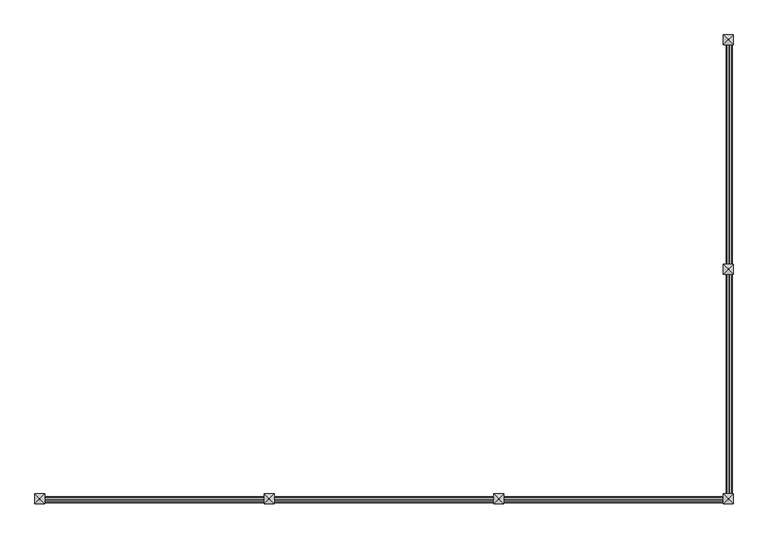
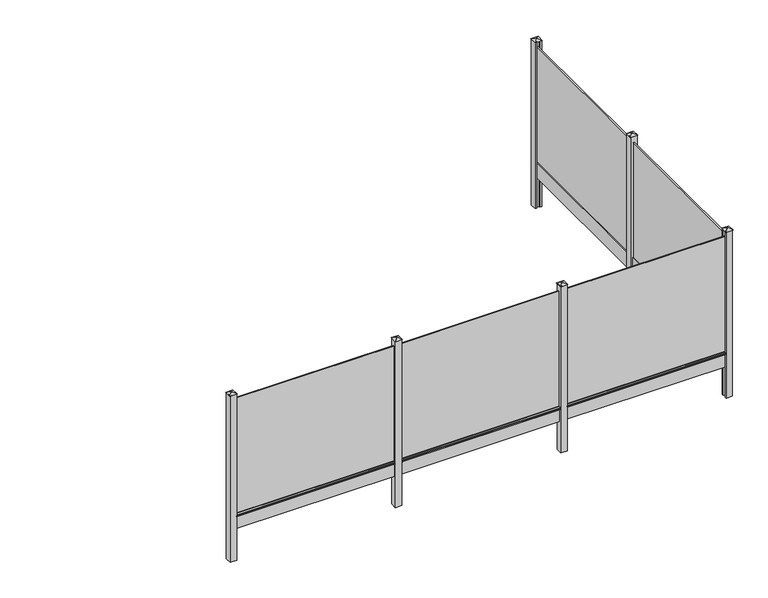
"""IFC4 building model written with IfcOpenShell, lengths in millimetres: railing geometry, Mehat - Railing - Plaque de Soubassement - Classique pour clôture rigide - 253.5x25x4.3/3.8 cm."""

from ifc_helpers import new_model, si_unit, frame, origin, place, context, project, spatial, polyline, circle_curve, outline, extrude, faceted_brep, source, transform, mapped, element, save
from ifc_brep_helpers import plane_surface, cylinder_surface, advanced_brep


def railing_6adef51b(model_context):
    return source(origin(), model_context, "Body", "SolidModel", [
        extrude(outline(polyline([(206796.2516516, -10992.4943936), (206779.2516516, -10992.4943936), (206779.2516516, -8457.4943936), (206796.2516516, -8457.4943936), (206796.2516516, -10992.4943936)])), frame((0.0, 0.0, 250.0), z_axis=(0.0, 0.0, 1.0), x_axis=(1.0, 0.0, 0.0)), (0.0, 0.0, 1.0), 1900.0),
        advanced_brep(
        [(206809.0334698, -8457.4943936, 250.0), (206808.8503139, -8457.4943936, 209.8662207), (206806.7516516, -8457.4943936, 0.0), (206768.7516516, -8457.4943936, 0.0), (206766.2516516, -8457.4943936, 250.0), (206808.8503139, -10992.4943936, 209.8662207), (206809.0334698, -10992.4943936, 250.0), (206766.2516516, -10992.4943936, 250.0), (206768.7516516, -10992.4943936, 0.0), (206806.7516516, -10992.4943936, 0.0), (206809.0334698, -10967.4943936, 250.0), (206809.0334698, -8482.4943936, 250.0), (206808.8503139, -8482.4943936, 209.8662207), (206808.8503139, -10967.4943936, 209.8662207), (206830.8327905, -8482.4943936, 217.1937129), (206830.8327905, -10967.4943936, 217.1937129), (206834.2516516, -8482.4943936, 221.9371294), (206834.2516516, -10967.4943936, 221.9371294), (206834.2516516, -8482.4943936, 238.0628706), (206834.2516516, -10967.4943936, 238.0628706), (206830.8327905, -8482.4943936, 242.8062871), (206830.8327905, -10967.4943936, 242.8062871)],
        [
            (0, 1),
            (1, 2),
            (2, 3),
            (3, 4),
            (4, 0),
            (5, 6),
            (6, 7),
            (7, 8),
            (8, 9),
            (9, 5),
            (4, 7),
            (6, 10),
            (10, 11),
            (11, 0),
            (3, 8),
            (2, 9),
            (1, 12),
            (12, 13),
            (13, 5),
            (12, 14),
            (14, 15),
            (15, 13),
            (14, 16, circle_curve(frame((206829.2516516, -8482.4943936, 221.9371294), z_axis=(0.0, -1.0, 0.0), x_axis=(1.0, 0.0, 0.0)), 5.0)),
            (16, 17),
            (17, 15, circle_curve(frame((206829.2516516, -10967.4943936, 221.9371294), z_axis=(0.0, 1.0, 0.0), x_axis=(1.0, 0.0, 0.0)), 5.0)),
            (16, 18),
            (18, 19),
            (19, 17),
            (18, 20, circle_curve(frame((206829.2516516, -8482.4943936, 238.0628706), z_axis=(0.0, -1.0, 0.0), x_axis=(1.0, 0.0, 0.0)), 5.0)),
            (20, 21),
            (21, 19, circle_curve(frame((206829.2516516, -10967.4943936, 238.0628706), z_axis=(0.0, 1.0, 0.0), x_axis=(1.0, 0.0, 0.0)), 5.0)),
            (20, 11),
            (10, 21),
            (10, 13),
            (12, 11),
        ],
        [
            plane_surface(frame((206766.2516516, -8457.4943936, 250.0), z_axis=(0.0, 1.0, 0.0), x_axis=(-1.0, 0.0, 0.0))),
            plane_surface(frame((206766.2516516, -10992.4943936, 250.0), z_axis=(0.0, -1.0, 0.0), x_axis=(1.0, 0.0, 0.0))),
            plane_surface(frame((206809.0334698, -8457.4943936, 250.0), z_axis=(0.0, 0.0, 1.0), x_axis=(0.0, -1.0, 0.0))),
            plane_surface(frame((206766.2516516, -8457.4943936, 250.0), z_axis=(-0.9999500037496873, 0.0, -0.009999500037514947), x_axis=(0.0, -1.0, 0.0))),
            plane_surface(frame((206768.7516516, -8457.4943936, 0.0), z_axis=(0.0, 0.0, -1.0), x_axis=(0.0, -1.0, 0.0))),
            plane_surface(frame((206806.7516516, -8457.4943936, 0.0), z_axis=(0.9999500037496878, 0.0, -0.009999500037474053), x_axis=(0.0, -1.0, 0.0))),
            plane_surface(frame((206808.8503139, -8457.4943936, 209.8662207), z_axis=(0.3162277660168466, 0.0, -0.948683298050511), x_axis=(0.0, -1.0, 0.0))),
            cylinder_surface(frame((206829.2516516, -10992.4943936, 221.9371294), z_axis=(0.0, 1.0, 0.0), x_axis=(1.0, 0.0, 0.0)), 5.0),
            plane_surface(frame((206834.2516516, -8457.4943936, 221.9371294), z_axis=(1.0, 0.0, 0.0), x_axis=(0.0, -1.0, 0.0))),
            cylinder_surface(frame((206829.2516516, -10992.4943936, 238.0628706), z_axis=(0.0, 1.0, 0.0), x_axis=(1.0, 0.0, 0.0)), 5.0),
            plane_surface(frame((206830.8327905, -8457.4943936, 242.8062871), z_axis=(0.3133749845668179, 0.0, 0.9496294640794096), x_axis=(0.0, -1.0, 0.0))),
            plane_surface(frame((206834.2516516, -10967.4943936, 221.9371294), z_axis=(0.0, -1.0, 0.0), x_axis=(0.0, 0.0, 1.0))),
            plane_surface(frame((206809.0334698, -10967.4943936, 250.0), z_axis=(0.9999895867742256, 0.0, -0.004563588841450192), x_axis=(0.0, -1.0, 0.0))),
            plane_surface(frame((206834.2516517, -8482.4943936, 221.9371294), z_axis=(0.0, 1.0, 0.0), x_axis=(0.0, 0.0, -1.0))),
            plane_surface(frame((206809.0334698, -8457.4943936, 250.0), z_axis=(0.9999895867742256, 0.0, -0.004563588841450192), x_axis=(0.0, -1.0, 0.0))),
        ],
        [
            (0, [[1, 2, 3, 4, 5]]),
            (1, [[6, 7, 8, 9, 10]]),
            (2, [[11, -7, 12, 13, 14, -5]]),
            (3, [[15, -8, -11, -4]]),
            (4, [[16, -9, -15, -3]]),
            (5, [[17, 18, 19, -10, -16, -2]]),
            (6, [[-18, 20, 21, 22]]),
            (7, [[-21, 23, 24, 25]]),
            (8, [[-24, 26, 27, 28]]),
            (9, [[-27, 29, 30, 31]]),
            (10, [[-30, 32, -13, 33]]),
            (11, [[-22, -25, -28, -31, -33, 34]]),
            (12, [[-12, -6, -19, -34]]),
            (13, [[-32, -29, -26, -23, -20, 35]]),
            (14, [[-17, -1, -14, -35]]),
        ],
    ),
        extrude(outline(polyline([(206837.7516516, -11067.4943936), (206737.7516516, -11067.4943936), (206737.7516516, -10967.4943936), (206766.2516516, -10967.4943936), (206766.2516516, -10992.4943936), (206809.2516516, -10992.4943936), (206809.2516516, -10967.4943936), (206837.7516516, -10967.4943936), (206837.7516516, -11067.4943936)])), frame((0.0, 0.0, -500.0), z_axis=(0.0, 0.0, 1.0), x_axis=(1.0, 0.0, 0.0)), (0.0, 0.0, 1.0), 2750.0),
        faceted_brep([(206781.3471055, -11011.1443936, 2275.4), (206781.3471055, -11023.8443936, 2275.4), (206794.0471055, -11023.8443936, 2275.4), (206794.0471055, -11011.1443936, 2275.4), (206731.4016516, -10961.1443936, 2250.0), (206844.1016516, -10961.1443936, 2250.0), (206844.1016516, -11073.8443936, 2250.0), (206731.4016516, -11073.8443936, 2250.0)], [[[0, 1, 2, 3]], [[4, 5, 6, 7]], [[4, 0, 3, 5]], [[5, 3, 2, 6]], [[6, 2, 1, 7]], [[7, 1, 0, 4]]]),
        extrude(outline(polyline([(206796.2516516, -13577.4943936), (206779.2516516, -13577.4943936), (206779.2516516, -11042.4943936), (206796.2516516, -11042.4943936), (206796.2516516, -13577.4943936)])), frame((0.0, 0.0, 250.0), z_axis=(0.0, 0.0, 1.0), x_axis=(1.0, 0.0, 0.0)), (0.0, 0.0, 1.0), 1900.0),
        advanced_brep(
        [(206809.0334698, -11042.4943936, 250.0), (206808.8503139, -11042.4943936, 209.8662207), (206806.7516516, -11042.4943936, 0.0), (206768.7516516, -11042.4943936, 0.0), (206766.2516516, -11042.4943936, 250.0), (206808.8503139, -13577.4943936, 209.8662207), (206809.0334698, -13577.4943936, 250.0), (206766.2516516, -13577.4943936, 250.0), (206768.7516516, -13577.4943936, 0.0), (206806.7516516, -13577.4943936, 0.0), (206809.0334698, -13552.4943936, 250.0), (206809.0334698, -11067.4943936, 250.0), (206808.8503139, -11067.4943936, 209.8662207), (206808.8503139, -13552.4943936, 209.8662207), (206830.8327905, -11067.4943936, 217.1937129), (206830.8327905, -13552.4943936, 217.1937129), (206834.2516516, -11067.4943936, 221.9371294), (206834.2516516, -13552.4943936, 221.9371294), (206834.2516516, -11067.4943936, 238.0628706), (206834.2516516, -13552.4943936, 238.0628706), (206830.8327905, -11067.4943936, 242.8062871), (206830.8327905, -13552.4943936, 242.8062871)],
        [
            (0, 1),
            (1, 2),
            (2, 3),
            (3, 4),
            (4, 0),
            (5, 6),
            (6, 7),
            (7, 8),
            (8, 9),
            (9, 5),
            (4, 7),
            (6, 10),
            (10, 11),
            (11, 0),
            (3, 8),
            (2, 9),
            (1, 12),
            (12, 13),
            (13, 5),
            (12, 14),
            (14, 15),
            (15, 13),
            (14, 16, circle_curve(frame((206829.2516516, -11067.4943936, 221.9371294), z_axis=(0.0, -1.0, 0.0), x_axis=(1.0, 0.0, 0.0)), 5.0)),
            (16, 17),
            (17, 15, circle_curve(frame((206829.2516516, -13552.4943936, 221.9371294), z_axis=(0.0, 1.0, 0.0), x_axis=(1.0, 0.0, 0.0)), 5.0)),
            (16, 18),
            (18, 19),
            (19, 17),
            (18, 20, circle_curve(frame((206829.2516516, -11067.4943936, 238.0628706), z_axis=(0.0, -1.0, 0.0), x_axis=(1.0, 0.0, 0.0)), 5.0)),
            (20, 21),
            (21, 19, circle_curve(frame((206829.2516516, -13552.4943936, 238.0628706), z_axis=(0.0, 1.0, 0.0), x_axis=(1.0, 0.0, 0.0)), 5.0)),
            (20, 11),
            (10, 21),
            (10, 13),
            (12, 11),
        ],
        [
            plane_surface(frame((206766.2516516, -11042.4943936, 250.0), z_axis=(0.0, 1.0, 0.0), x_axis=(-1.0, 0.0, 0.0))),
            plane_surface(frame((206766.2516516, -13577.4943936, 250.0), z_axis=(0.0, -1.0, 0.0), x_axis=(1.0, 0.0, 0.0))),
            plane_surface(frame((206809.0334698, -11042.4943936, 250.0), z_axis=(0.0, 0.0, 1.0), x_axis=(0.0, -1.0, 0.0))),
            plane_surface(frame((206766.2516516, -11042.4943936, 250.0), z_axis=(-0.9999500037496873, 0.0, -0.009999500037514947), x_axis=(0.0, -1.0, 0.0))),
            plane_surface(frame((206768.7516516, -11042.4943936, 0.0), z_axis=(0.0, 0.0, -1.0), x_axis=(0.0, -1.0, 0.0))),
            plane_surface(frame((206806.7516516, -11042.4943936, 0.0), z_axis=(0.9999500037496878, 0.0, -0.009999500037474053), x_axis=(0.0, -1.0, 0.0))),
            plane_surface(frame((206808.8503139, -11042.4943936, 209.8662207), z_axis=(0.3162277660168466, 0.0, -0.948683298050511), x_axis=(0.0, -1.0, 0.0))),
            cylinder_surface(frame((206829.2516516, -13577.4943936, 221.9371294), z_axis=(0.0, 1.0, 0.0), x_axis=(1.0, 0.0, 0.0)), 5.0),
            plane_surface(frame((206834.2516516, -11042.4943936, 221.9371294), z_axis=(1.0, 0.0, 0.0), x_axis=(0.0, -1.0, 0.0))),
            cylinder_surface(frame((206829.2516516, -13577.4943936, 238.0628706), z_axis=(0.0, 1.0, 0.0), x_axis=(1.0, 0.0, 0.0)), 5.0),
            plane_surface(frame((206830.8327905, -11042.4943936, 242.8062871), z_axis=(0.3133749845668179, 0.0, 0.9496294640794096), x_axis=(0.0, -1.0, 0.0))),
            plane_surface(frame((206834.2516516, -13552.4943936, 221.9371294), z_axis=(0.0, -1.0, 0.0), x_axis=(0.0, 0.0, 1.0))),
            plane_surface(frame((206809.0334698, -13552.4943936, 250.0), z_axis=(0.9999895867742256, 0.0, -0.004563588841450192), x_axis=(0.0, -1.0, 0.0))),
            plane_surface(frame((206834.2516517, -11067.4943936, 221.9371294), z_axis=(0.0, 1.0, 0.0), x_axis=(0.0, 0.0, -1.0))),
            plane_surface(frame((206809.0334698, -11042.4943936, 250.0), z_axis=(0.9999895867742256, 0.0, -0.004563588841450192), x_axis=(0.0, -1.0, 0.0))),
        ],
        [
            (0, [[1, 2, 3, 4, 5]]),
            (1, [[6, 7, 8, 9, 10]]),
            (2, [[11, -7, 12, 13, 14, -5]]),
            (3, [[15, -8, -11, -4]]),
            (4, [[16, -9, -15, -3]]),
            (5, [[17, 18, 19, -10, -16, -2]]),
            (6, [[-18, 20, 21, 22]]),
            (7, [[-21, 23, 24, 25]]),
            (8, [[-24, 26, 27, 28]]),
            (9, [[-27, 29, 30, 31]]),
            (10, [[-30, 32, -13, 33]]),
            (11, [[-22, -25, -28, -31, -33, 34]]),
            (12, [[-12, -6, -19, -34]]),
            (13, [[-32, -29, -26, -23, -20, 35]]),
            (14, [[-17, -1, -14, -35]]),
        ],
    ),
        extrude(outline(polyline([(204227.7516516, -13610.9943936), (204227.7516516, -13593.9943936), (206762.7516516, -13593.9943936), (206762.7516516, -13610.9943936), (204227.7516516, -13610.9943936)])), frame((0.0, 0.0, 250.0), z_axis=(0.0, 0.0, 1.0), x_axis=(1.0, 0.0, 0.0)), (0.0, 0.0, 1.0), 1900.0),
        advanced_brep(
        [(206762.7516516, -13623.7762118, 250.0), (206762.7516516, -13623.5930558, 209.8662207), (206762.7516516, -13621.4943936, 0.0), (206762.7516516, -13583.4943936, 0.0), (206762.7516516, -13580.9943936, 250.0), (204227.7516516, -13623.5930558, 209.8662207), (204227.7516516, -13623.7762118, 250.0), (204227.7516516, -13580.9943936, 250.0), (204227.7516516, -13583.4943936, 0.0), (204227.7516516, -13621.4943936, 0.0), (204252.7516516, -13623.7762118, 250.0), (206737.7516516, -13623.7762118, 250.0), (206737.7516516, -13623.5930558, 209.8662207), (204252.7516516, -13623.5930558, 209.8662207), (206737.7516516, -13645.5755325, 217.1937129), (204252.7516516, -13645.5755325, 217.1937129), (206737.7516516, -13648.9943936, 221.9371294), (204252.7516516, -13648.9943936, 221.9371294), (206737.7516516, -13648.9943936, 238.0628706), (204252.7516516, -13648.9943936, 238.0628706), (206737.7516516, -13645.5755325, 242.8062871), (204252.7516516, -13645.5755325, 242.8062871)],
        [
            (0, 1),
            (1, 2),
            (2, 3),
            (3, 4),
            (4, 0),
            (5, 6),
            (6, 7),
            (7, 8),
            (8, 9),
            (9, 5),
            (4, 7),
            (6, 10),
            (10, 11),
            (11, 0),
            (3, 8),
            (2, 9),
            (1, 12),
            (12, 13),
            (13, 5),
            (12, 14),
            (14, 15),
            (15, 13),
            (14, 16, circle_curve(frame((206737.7516516, -13643.9943936, 221.9371294), z_axis=(-1.0, 0.0, 0.0), x_axis=(0.0, -1.0, 0.0)), 5.0)),
            (16, 17),
            (17, 15, circle_curve(frame((204252.7516516, -13643.9943936, 221.9371294), z_axis=(1.0, 0.0, 0.0), x_axis=(0.0, -1.0, 0.0)), 5.0)),
            (16, 18),
            (18, 19),
            (19, 17),
            (18, 20, circle_curve(frame((206737.7516516, -13643.9943936, 238.0628706), z_axis=(-1.0, 0.0, 0.0), x_axis=(0.0, -1.0, 0.0)), 5.0)),
            (20, 21),
            (21, 19, circle_curve(frame((204252.7516516, -13643.9943936, 238.0628706), z_axis=(1.0, 0.0, 0.0), x_axis=(0.0, -1.0, 0.0)), 5.0)),
            (20, 11),
            (10, 21),
            (10, 13),
            (12, 11),
        ],
        [
            plane_surface(frame((206762.7516516, -13580.9943936, 250.0), z_axis=(1.0, 0.0, 0.0), x_axis=(0.0, 1.0, 0.0))),
            plane_surface(frame((204227.7516516, -13580.9943936, 250.0), z_axis=(-1.0, 0.0, 0.0), x_axis=(0.0, -1.0, 0.0))),
            plane_surface(frame((206762.7516516, -13623.7762118, 250.0), z_axis=(0.0, 0.0, 1.0), x_axis=(-1.0, 0.0, 0.0))),
            plane_surface(frame((206762.7516516, -13580.9943936, 250.0), z_axis=(0.0, 0.9999500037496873, -0.009999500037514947), x_axis=(-1.0, 0.0, 0.0))),
            plane_surface(frame((206762.7516516, -13583.4943936, 0.0), z_axis=(0.0, 0.0, -1.0), x_axis=(-1.0, 0.0, 0.0))),
            plane_surface(frame((206762.7516516, -13621.4943936, 0.0), z_axis=(0.0, -0.9999500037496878, -0.009999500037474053), x_axis=(-1.0, 0.0, 0.0))),
            plane_surface(frame((206762.7516516, -13623.5930558, 209.8662207), z_axis=(0.0, -0.3162277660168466, -0.948683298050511), x_axis=(-1.0, 0.0, 0.0))),
            cylinder_surface(frame((204227.7516516, -13643.9943936, 221.9371294), z_axis=(1.0, 0.0, 0.0), x_axis=(0.0, -1.0, 0.0)), 5.0),
            plane_surface(frame((206762.7516516, -13648.9943936, 221.9371294), z_axis=(0.0, -1.0, 0.0), x_axis=(-1.0, 0.0, 0.0))),
            cylinder_surface(frame((204227.7516516, -13643.9943936, 238.0628706), z_axis=(1.0, 0.0, 0.0), x_axis=(0.0, -1.0, 0.0)), 5.0),
            plane_surface(frame((206762.7516516, -13645.5755325, 242.8062871), z_axis=(0.0, -0.3133749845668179, 0.9496294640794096), x_axis=(-1.0, 0.0, 0.0))),
            plane_surface(frame((204252.7516516, -13648.9943936, 221.9371294), z_axis=(-1.0, 0.0, 0.0), x_axis=(0.0, 0.0, 1.0))),
            plane_surface(frame((204252.7516516, -13623.7762118, 250.0), z_axis=(0.0, -0.9999895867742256, -0.004563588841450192), x_axis=(-1.0, 0.0, 0.0))),
            plane_surface(frame((206737.7516516, -13648.9943936, 221.9371294), z_axis=(1.0, 0.0, 0.0), x_axis=(0.0, 0.0, -1.0))),
            plane_surface(frame((206762.7516516, -13623.7762118, 250.0), z_axis=(0.0, -0.9999895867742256, -0.004563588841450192), x_axis=(-1.0, 0.0, 0.0))),
        ],
        [
            (0, [[1, 2, 3, 4, 5]]),
            (1, [[6, 7, 8, 9, 10]]),
            (2, [[11, -7, 12, 13, 14, -5]]),
            (3, [[15, -8, -11, -4]]),
            (4, [[16, -9, -15, -3]]),
            (5, [[17, 18, 19, -10, -16, -2]]),
            (6, [[-18, 20, 21, 22]]),
            (7, [[-21, 23, 24, 25]]),
            (8, [[-24, 26, 27, 28]]),
            (9, [[-27, 29, 30, 31]]),
            (10, [[-30, 32, -13, 33]]),
            (11, [[-22, -25, -28, -31, -33, 34]]),
            (12, [[-12, -6, -19, -34]]),
            (13, [[-32, -29, -26, -23, -20, 35]]),
            (14, [[-17, -1, -14, -35]]),
        ],
    ),
        extrude(outline(polyline([(204152.7516516, -13652.4943936), (204152.7516516, -13552.4943936), (204252.7516516, -13552.4943936), (204252.7516516, -13580.9943936), (204227.7516516, -13580.9943936), (204227.7516516, -13623.9943936), (204252.7516516, -13623.9943936), (204252.7516516, -13652.4943936), (204152.7516516, -13652.4943936)])), frame((0.0, 0.0, -500.0), z_axis=(0.0, 0.0, 1.0), x_axis=(1.0, 0.0, 0.0)), (0.0, 0.0, 1.0), 2750.0),
        faceted_brep([(204209.1016516, -13596.0898475, 2275.4), (204196.4016516, -13596.0898475, 2275.4), (204196.4016516, -13608.7898475, 2275.4), (204209.1016516, -13608.7898475, 2275.4), (204259.1016516, -13546.1443936, 2250.0), (204259.1016516, -13658.8443936, 2250.0), (204146.4016516, -13658.8443936, 2250.0), (204146.4016516, -13546.1443936, 2250.0)], [[[0, 1, 2, 3]], [[4, 5, 6, 7]], [[4, 0, 3, 5]], [[5, 3, 2, 6]], [[6, 2, 1, 7]], [[7, 1, 0, 4]]]),
        extrude(outline(polyline([(201642.7516516, -13610.9943936), (201642.7516516, -13593.9943936), (204177.7516516, -13593.9943936), (204177.7516516, -13610.9943936), (201642.7516516, -13610.9943936)])), frame((0.0, 0.0, 250.0), z_axis=(0.0, 0.0, 1.0), x_axis=(1.0, 0.0, 0.0)), (0.0, 0.0, 1.0), 1900.0),
        advanced_brep(
        [(204177.7516516, -13623.7762118, 250.0), (204177.7516516, -13623.5930558, 209.8662207), (204177.7516516, -13621.4943936, 0.0), (204177.7516516, -13583.4943936, 0.0), (204177.7516516, -13580.9943936, 250.0), (201642.7516516, -13623.5930558, 209.8662207), (201642.7516516, -13623.7762118, 250.0), (201642.7516516, -13580.9943936, 250.0), (201642.7516516, -13583.4943936, 0.0), (201642.7516516, -13621.4943936, 0.0), (201667.7516516, -13623.7762118, 250.0), (204152.7516516, -13623.7762118, 250.0), (204152.7516516, -13623.5930558, 209.8662207), (201667.7516516, -13623.5930558, 209.8662207), (204152.7516516, -13645.5755325, 217.1937129), (201667.7516516, -13645.5755325, 217.1937129), (204152.7516516, -13648.9943936, 221.9371294), (201667.7516516, -13648.9943936, 221.9371294), (204152.7516516, -13648.9943936, 238.0628706), (201667.7516516, -13648.9943936, 238.0628706), (204152.7516516, -13645.5755325, 242.8062871), (201667.7516516, -13645.5755325, 242.8062871)],
        [
            (0, 1),
            (1, 2),
            (2, 3),
            (3, 4),
            (4, 0),
            (5, 6),
            (6, 7),
            (7, 8),
            (8, 9),
            (9, 5),
            (4, 7),
            (6, 10),
            (10, 11),
            (11, 0),
            (3, 8),
            (2, 9),
            (1, 12),
            (12, 13),
            (13, 5),
            (12, 14),
            (14, 15),
            (15, 13),
            (14, 16, circle_curve(frame((204152.7516516, -13643.9943936, 221.9371294), z_axis=(-1.0, 0.0, 0.0), x_axis=(0.0, -1.0, 0.0)), 5.0)),
            (16, 17),
            (17, 15, circle_curve(frame((201667.7516516, -13643.9943936, 221.9371294), z_axis=(1.0, 0.0, 0.0), x_axis=(0.0, -1.0, 0.0)), 5.0)),
            (16, 18),
            (18, 19),
            (19, 17),
            (18, 20, circle_curve(frame((204152.7516516, -13643.9943936, 238.0628706), z_axis=(-1.0, 0.0, 0.0), x_axis=(0.0, -1.0, 0.0)), 5.0)),
            (20, 21),
            (21, 19, circle_curve(frame((201667.7516516, -13643.9943936, 238.0628706), z_axis=(1.0, 0.0, 0.0), x_axis=(0.0, -1.0, 0.0)), 5.0)),
            (20, 11),
            (10, 21),
            (10, 13),
            (12, 11),
        ],
        [
            plane_surface(frame((204177.7516516, -13580.9943936, 250.0), z_axis=(1.0, 0.0, 0.0), x_axis=(0.0, 1.0, 0.0))),
            plane_surface(frame((201642.7516516, -13580.9943936, 250.0), z_axis=(-1.0, 0.0, 0.0), x_axis=(0.0, -1.0, 0.0))),
            plane_surface(frame((204177.7516516, -13623.7762118, 250.0), z_axis=(0.0, 0.0, 1.0), x_axis=(-1.0, 0.0, 0.0))),
            plane_surface(frame((204177.7516516, -13580.9943936, 250.0), z_axis=(0.0, 0.9999500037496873, -0.009999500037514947), x_axis=(-1.0, 0.0, 0.0))),
            plane_surface(frame((204177.7516516, -13583.4943936, 0.0), z_axis=(0.0, 0.0, -1.0), x_axis=(-1.0, 0.0, 0.0))),
            plane_surface(frame((204177.7516516, -13621.4943936, 0.0), z_axis=(0.0, -0.9999500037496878, -0.009999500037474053), x_axis=(-1.0, 0.0, 0.0))),
            plane_surface(frame((204177.7516516, -13623.5930558, 209.8662207), z_axis=(0.0, -0.3162277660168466, -0.948683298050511), x_axis=(-1.0, 0.0, 0.0))),
            cylinder_surface(frame((201642.7516516, -13643.9943936, 221.9371294), z_axis=(1.0, 0.0, 0.0), x_axis=(0.0, -1.0, 0.0)), 5.0),
            plane_surface(frame((204177.7516516, -13648.9943936, 221.9371294), z_axis=(0.0, -1.0, 0.0), x_axis=(-1.0, 0.0, 0.0))),
            cylinder_surface(frame((201642.7516516, -13643.9943936, 238.0628706), z_axis=(1.0, 0.0, 0.0), x_axis=(0.0, -1.0, 0.0)), 5.0),
            plane_surface(frame((204177.7516516, -13645.5755325, 242.8062871), z_axis=(0.0, -0.3133749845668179, 0.9496294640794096), x_axis=(-1.0, 0.0, 0.0))),
            plane_surface(frame((201667.7516516, -13648.9943936, 221.9371294), z_axis=(-1.0, 0.0, 0.0), x_axis=(0.0, 0.0, 1.0))),
            plane_surface(frame((201667.7516516, -13623.7762118, 250.0), z_axis=(0.0, -0.9999895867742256, -0.004563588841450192), x_axis=(-1.0, 0.0, 0.0))),
            plane_surface(frame((204152.7516516, -13648.9943936, 221.9371294), z_axis=(1.0, 0.0, 0.0), x_axis=(0.0, 0.0, -1.0))),
            plane_surface(frame((204177.7516516, -13623.7762118, 250.0), z_axis=(0.0, -0.9999895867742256, -0.004563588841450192), x_axis=(-1.0, 0.0, 0.0))),
        ],
        [
            (0, [[1, 2, 3, 4, 5]]),
            (1, [[6, 7, 8, 9, 10]]),
            (2, [[11, -7, 12, 13, 14, -5]]),
            (3, [[15, -8, -11, -4]]),
            (4, [[16, -9, -15, -3]]),
            (5, [[17, 18, 19, -10, -16, -2]]),
            (6, [[-18, 20, 21, 22]]),
            (7, [[-21, 23, 24, 25]]),
            (8, [[-24, 26, 27, 28]]),
            (9, [[-27, 29, 30, 31]]),
            (10, [[-30, 32, -13, 33]]),
            (11, [[-22, -25, -28, -31, -33, 34]]),
            (12, [[-12, -6, -19, -34]]),
            (13, [[-32, -29, -26, -23, -20, 35]]),
            (14, [[-17, -1, -14, -35]]),
        ],
    ),
        extrude(outline(polyline([(201567.7516516, -13652.4943936), (201567.7516516, -13552.4943936), (201667.7516516, -13552.4943936), (201667.7516516, -13580.9943936), (201642.7516516, -13580.9943936), (201642.7516516, -13623.9943936), (201667.7516516, -13623.9943936), (201667.7516516, -13652.4943936), (201567.7516516, -13652.4943936)])), frame((0.0, 0.0, -500.0), z_axis=(0.0, 0.0, 1.0), x_axis=(1.0, 0.0, 0.0)), (0.0, 0.0, 1.0), 2750.0),
        faceted_brep([(201624.1016516, -13596.0898475, 2275.4), (201611.4016516, -13596.0898475, 2275.4), (201611.4016516, -13608.7898475, 2275.4), (201624.1016516, -13608.7898475, 2275.4), (201674.1016516, -13546.1443936, 2250.0), (201674.1016516, -13658.8443936, 2250.0), (201561.4016516, -13658.8443936, 2250.0), (201561.4016516, -13546.1443936, 2250.0)], [[[0, 1, 2, 3]], [[4, 5, 6, 7]], [[4, 0, 3, 5]], [[5, 3, 2, 6]], [[6, 2, 1, 7]], [[7, 1, 0, 4]]]),
        extrude(outline(polyline([(199057.7516516, -13610.9943936), (199057.7516516, -13593.9943936), (201592.7516516, -13593.9943936), (201592.7516516, -13610.9943936), (199057.7516516, -13610.9943936)])), frame((0.0, 0.0, 250.0), z_axis=(0.0, 0.0, 1.0), x_axis=(1.0, 0.0, 0.0)), (0.0, 0.0, 1.0), 1900.0),
        advanced_brep(
        [(201592.7516516, -13623.7762118, 250.0), (201592.7516516, -13623.5930558, 209.8662207), (201592.7516516, -13621.4943936, 0.0), (201592.7516516, -13583.4943936, 0.0), (201592.7516516, -13580.9943936, 250.0), (199057.7516516, -13623.5930558, 209.8662207), (199057.7516516, -13623.7762118, 250.0), (199057.7516516, -13580.9943936, 250.0), (199057.7516516, -13583.4943936, 0.0), (199057.7516516, -13621.4943936, 0.0), (199082.7516516, -13623.7762118, 250.0), (201567.7516516, -13623.7762118, 250.0), (201567.7516516, -13623.5930558, 209.8662207), (199082.7516516, -13623.5930558, 209.8662207), (201567.7516516, -13645.5755325, 217.1937129), (199082.7516516, -13645.5755325, 217.1937129), (201567.7516516, -13648.9943936, 221.9371294), (199082.7516516, -13648.9943936, 221.9371294), (201567.7516516, -13648.9943936, 238.0628706), (199082.7516516, -13648.9943936, 238.0628706), (201567.7516516, -13645.5755325, 242.8062871), (199082.7516516, -13645.5755325, 242.8062871)],
        [
            (0, 1),
            (1, 2),
            (2, 3),
            (3, 4),
            (4, 0),
            (5, 6),
            (6, 7),
            (7, 8),
            (8, 9),
            (9, 5),
            (4, 7),
            (6, 10),
            (10, 11),
            (11, 0),
            (3, 8),
            (2, 9),
            (1, 12),
            (12, 13),
            (13, 5),
            (12, 14),
            (14, 15),
            (15, 13),
            (14, 16, circle_curve(frame((201567.7516516, -13643.9943936, 221.9371294), z_axis=(-1.0, 0.0, 0.0), x_axis=(0.0, -1.0, 0.0)), 5.0)),
            (16, 17),
            (17, 15, circle_curve(frame((199082.7516516, -13643.9943936, 221.9371294), z_axis=(1.0, 0.0, 0.0), x_axis=(0.0, -1.0, 0.0)), 5.0)),
            (16, 18),
            (18, 19),
            (19, 17),
            (18, 20, circle_curve(frame((201567.7516516, -13643.9943936, 238.0628706), z_axis=(-1.0, 0.0, 0.0), x_axis=(0.0, -1.0, 0.0)), 5.0)),
            (20, 21),
            (21, 19, circle_curve(frame((199082.7516516, -13643.9943936, 238.0628706), z_axis=(1.0, 0.0, 0.0), x_axis=(0.0, -1.0, 0.0)), 5.0)),
            (20, 11),
            (10, 21),
            (10, 13),
            (12, 11),
        ],
        [
            plane_surface(frame((201592.7516516, -13580.9943936, 250.0), z_axis=(1.0, 0.0, 0.0), x_axis=(0.0, 1.0, 0.0))),
            plane_surface(frame((199057.7516516, -13580.9943936, 250.0), z_axis=(-1.0, 0.0, 0.0), x_axis=(0.0, -1.0, 0.0))),
            plane_surface(frame((201592.7516516, -13623.7762118, 250.0), z_axis=(0.0, 0.0, 1.0), x_axis=(-1.0, 0.0, 0.0))),
            plane_surface(frame((201592.7516516, -13580.9943936, 250.0), z_axis=(0.0, 0.9999500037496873, -0.009999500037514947), x_axis=(-1.0, 0.0, 0.0))),
            plane_surface(frame((201592.7516516, -13583.4943936, 0.0), z_axis=(0.0, 0.0, -1.0), x_axis=(-1.0, 0.0, 0.0))),
            plane_surface(frame((201592.7516516, -13621.4943936, 0.0), z_axis=(0.0, -0.9999500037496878, -0.009999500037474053), x_axis=(-1.0, 0.0, 0.0))),
            plane_surface(frame((201592.7516516, -13623.5930558, 209.8662207), z_axis=(0.0, -0.3162277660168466, -0.948683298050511), x_axis=(-1.0, 0.0, 0.0))),
            cylinder_surface(frame((199057.7516516, -13643.9943936, 221.9371294), z_axis=(1.0, 0.0, 0.0), x_axis=(0.0, -1.0, 0.0)), 5.0),
            plane_surface(frame((201592.7516516, -13648.9943936, 221.9371294), z_axis=(0.0, -1.0, 0.0), x_axis=(-1.0, 0.0, 0.0))),
            cylinder_surface(frame((199057.7516516, -13643.9943936, 238.0628706), z_axis=(1.0, 0.0, 0.0), x_axis=(0.0, -1.0, 0.0)), 5.0),
            plane_surface(frame((201592.7516516, -13645.5755325, 242.8062871), z_axis=(0.0, -0.3133749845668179, 0.9496294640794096), x_axis=(-1.0, 0.0, 0.0))),
            plane_surface(frame((199082.7516516, -13648.9943936, 221.9371294), z_axis=(-1.0, 0.0, 0.0), x_axis=(0.0, 0.0, 1.0))),
            plane_surface(frame((199082.7516516, -13623.7762118, 250.0), z_axis=(0.0, -0.9999895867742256, -0.004563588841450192), x_axis=(-1.0, 0.0, 0.0))),
            plane_surface(frame((201567.7516516, -13648.9943936, 221.9371294), z_axis=(1.0, 0.0, 0.0), x_axis=(0.0, 0.0, -1.0))),
            plane_surface(frame((201592.7516516, -13623.7762118, 250.0), z_axis=(0.0, -0.9999895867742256, -0.004563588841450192), x_axis=(-1.0, 0.0, 0.0))),
        ],
        [
            (0, [[1, 2, 3, 4, 5]]),
            (1, [[6, 7, 8, 9, 10]]),
            (2, [[11, -7, 12, 13, 14, -5]]),
            (3, [[15, -8, -11, -4]]),
            (4, [[16, -9, -15, -3]]),
            (5, [[17, 18, 19, -10, -16, -2]]),
            (6, [[-18, 20, 21, 22]]),
            (7, [[-21, 23, 24, 25]]),
            (8, [[-24, 26, 27, 28]]),
            (9, [[-27, 29, 30, 31]]),
            (10, [[-30, 32, -13, 33]]),
            (11, [[-22, -25, -28, -31, -33, 34]]),
            (12, [[-12, -6, -19, -34]]),
            (13, [[-32, -29, -26, -23, -20, 35]]),
            (14, [[-17, -1, -14, -35]]),
        ],
    ),
        extrude(outline(polyline([(206737.7516516, -13652.4943936), (206737.7516516, -13623.9943936), (206762.7516516, -13623.9943936), (206762.7516516, -13580.9943936), (206737.7516516, -13580.9943936), (206737.7516516, -13552.4943936), (206766.2516516, -13552.4943936), (206766.2516516, -13577.4943936), (206809.2516516, -13577.4943936), (206809.2516516, -13552.4943936), (206837.7516516, -13552.4943936), (206837.7516516, -13652.4943936), (206737.7516516, -13652.4943936)])), frame((0.0, 0.0, -500.0), z_axis=(0.0, 0.0, 1.0), x_axis=(1.0, 0.0, 0.0)), (0.0, 0.0, 1.0), 2750.0),
        faceted_brep([(206794.1016516, -13596.0898475, 2275.4), (206781.4016516, -13596.0898475, 2275.4), (206781.4016516, -13608.7898475, 2275.4), (206794.1016516, -13608.7898475, 2275.4), (206844.1016516, -13546.1443936, 2250.0), (206844.1016516, -13658.8443936, 2250.0), (206731.4016516, -13658.8443936, 2250.0), (206731.4016516, -13546.1443936, 2250.0)], [[[0, 1, 2, 3]], [[4, 5, 6, 7]], [[4, 0, 3, 5]], [[5, 3, 2, 6]], [[6, 2, 1, 7]], [[7, 1, 0, 4]]]),
        extrude(outline(polyline([(206837.7516516, -8482.4943936), (206809.2516516, -8482.4943936), (206809.2516516, -8457.4943936), (206766.2516516, -8457.4943936), (206766.2516516, -8482.4943936), (206737.7516516, -8482.4943936), (206737.7516516, -8382.4943936), (206837.7516516, -8382.4943936), (206837.7516516, -8482.4943936)])), frame((0.0, 0.0, -500.0), z_axis=(0.0, 0.0, 1.0), x_axis=(1.0, 0.0, 0.0)), (0.0, 0.0, 1.0), 2750.0),
        faceted_brep([(206781.3471055, -8426.1443936, 2275.4), (206781.3471055, -8438.8443936, 2275.4), (206794.0471055, -8438.8443936, 2275.4), (206794.0471055, -8426.1443936, 2275.4), (206731.4016516, -8376.1443936, 2250.0), (206844.1016516, -8376.1443936, 2250.0), (206844.1016516, -8488.8443936, 2250.0), (206731.4016516, -8488.8443936, 2250.0)], [[[0, 1, 2, 3]], [[4, 5, 6, 7]], [[4, 0, 3, 5]], [[5, 3, 2, 6]], [[6, 2, 1, 7]], [[7, 1, 0, 4]]]),
        extrude(outline(polyline([(198982.7516516, -13652.4943936), (198982.7516516, -13552.4943936), (199082.7516516, -13552.4943936), (199082.7516516, -13580.9943936), (199057.7516516, -13580.9943936), (199057.7516516, -13623.9943936), (199082.7516516, -13623.9943936), (199082.7516516, -13652.4943936), (198982.7516516, -13652.4943936)])), frame((0.0, 0.0, -500.0), z_axis=(0.0, 0.0, 1.0), x_axis=(1.0, 0.0, 0.0)), (0.0, 0.0, 1.0), 2750.0),
        faceted_brep([(199039.1016516, -13596.0898475, 2275.4), (199026.4016516, -13596.0898475, 2275.4), (199026.4016516, -13608.7898475, 2275.4), (199039.1016516, -13608.7898475, 2275.4), (199089.1016516, -13546.1443936, 2250.0), (199089.1016516, -13658.8443936, 2250.0), (198976.4016516, -13658.8443936, 2250.0), (198976.4016516, -13546.1443936, 2250.0)], [[[0, 1, 2, 3]], [[4, 5, 6, 7]], [[4, 0, 3, 5]], [[5, 3, 2, 6]], [[6, 2, 1, 7]], [[7, 1, 0, 4]]]),
    ])


if __name__ == "__main__":
    model = new_model("IFC4")
    model_context = context("Model", 3, world=origin())
    ifc_project = project(units=[si_unit("LENGTHUNIT", "METRE", prefix="MILLI")], contexts=[model_context])
    site = spatial("IfcSite", under=ifc_project)
    building = spatial("IfcBuilding", under=site)
    placement = place(None, origin())
    railing_shape = railing_6adef51b(model_context)
    element("IfcRailing", 1, ObjectType="Mehat - Railing - Plaque de Soubassement - Classique pour clôture rigide - 253.5x25x4.3/3.8 cm", at=placement, inside=building, context=model_context, shape_type="MappedRepresentation", body=[
        mapped(railing_shape, transform((0.0, 0.0, 0.0), x_axis=(1.0, 0.0, 0.0), y_axis=(0.0, 1.0, 0.0), z_axis=(0.0, 0.0, 1.0))),
    ])
    save(model, "model.ifc")
